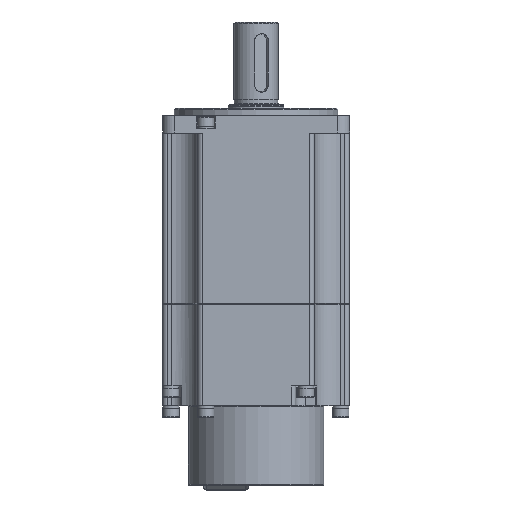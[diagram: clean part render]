
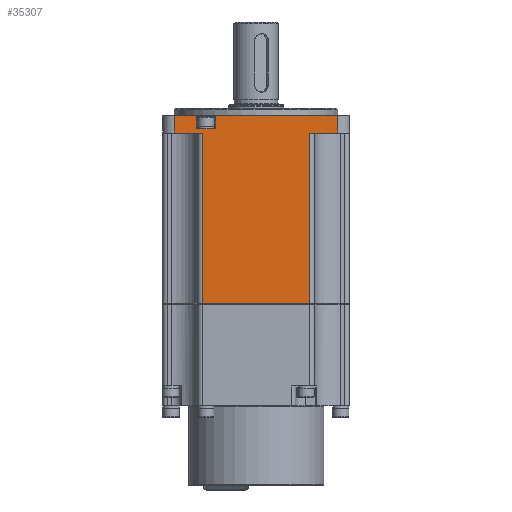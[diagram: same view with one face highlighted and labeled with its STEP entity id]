
A CAD part, front view. The second image highlights one B-rep face of the part: STEP entity #35307.
In plain terms, the highlighted planar face has unit normal (0, -1, 0).
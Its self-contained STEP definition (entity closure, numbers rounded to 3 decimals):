
#944=PLANE('',#37754);
#3281=FACE_OUTER_BOUND('',#5237,.T.);
#5237=EDGE_LOOP('',(#25960,#25961,#25962,#25963,#25964,#25965,#25966,#25967,
#25968,#25969,#25970,#25971));
#7706=LINE('',#56732,#10643);
#7730=LINE('',#57495,#10667);
#7733=LINE('',#57503,#10670);
#7747=LINE('',#57534,#10684);
#7748=LINE('',#57537,#10685);
#7749=LINE('',#57539,#10686);
#7750=LINE('',#57541,#10687);
#7751=LINE('',#57543,#10688);
#7752=LINE('',#57545,#10689);
#7753=LINE('',#57546,#10690);
#7754=LINE('',#57547,#10691);
#7755=LINE('',#57548,#10692);
#10643=VECTOR('',#43121,1000.);
#10667=VECTOR('',#43271,1000.);
#10670=VECTOR('',#43276,1000.);
#10684=VECTOR('',#43304,1000.);
#10685=VECTOR('',#43307,1000.);
#10686=VECTOR('',#43308,1000.);
#10687=VECTOR('',#43309,1000.);
#10688=VECTOR('',#43310,1000.);
#10689=VECTOR('',#43311,1000.);
#10690=VECTOR('',#43312,1000.);
#10691=VECTOR('',#43313,1000.);
#10692=VECTOR('',#43314,1000.);
#15174=VERTEX_POINT('',#56729);
#15175=VERTEX_POINT('',#56731);
#15239=VERTEX_POINT('',#57492);
#15240=VERTEX_POINT('',#57494);
#15243=VERTEX_POINT('',#57500);
#15244=VERTEX_POINT('',#57502);
#15254=VERTEX_POINT('',#57532);
#15255=VERTEX_POINT('',#57536);
#15256=VERTEX_POINT('',#57538);
#15257=VERTEX_POINT('',#57540);
#15258=VERTEX_POINT('',#57542);
#15259=VERTEX_POINT('',#57544);
#19140=EDGE_CURVE('',#15175,#15174,#7706,.T.);
#19216=EDGE_CURVE('',#15239,#15240,#7730,.T.);
#19220=EDGE_CURVE('',#15243,#15244,#7733,.T.);
#19237=EDGE_CURVE('',#15244,#15254,#7747,.T.);
#19238=EDGE_CURVE('',#15239,#15255,#7748,.T.);
#19239=EDGE_CURVE('',#15255,#15256,#7749,.T.);
#19240=EDGE_CURVE('',#15256,#15257,#7750,.T.);
#19241=EDGE_CURVE('',#15257,#15258,#7751,.T.);
#19242=EDGE_CURVE('',#15259,#15258,#7752,.T.);
#19243=EDGE_CURVE('',#15259,#15254,#7753,.T.);
#19244=EDGE_CURVE('',#15243,#15175,#7754,.T.);
#19245=EDGE_CURVE('',#15174,#15240,#7755,.T.);
#25960=ORIENTED_EDGE('',*,*,#19216,.F.);
#25961=ORIENTED_EDGE('',*,*,#19238,.T.);
#25962=ORIENTED_EDGE('',*,*,#19239,.T.);
#25963=ORIENTED_EDGE('',*,*,#19240,.T.);
#25964=ORIENTED_EDGE('',*,*,#19241,.T.);
#25965=ORIENTED_EDGE('',*,*,#19242,.F.);
#25966=ORIENTED_EDGE('',*,*,#19243,.T.);
#25967=ORIENTED_EDGE('',*,*,#19237,.F.);
#25968=ORIENTED_EDGE('',*,*,#19220,.F.);
#25969=ORIENTED_EDGE('',*,*,#19244,.T.);
#25970=ORIENTED_EDGE('',*,*,#19140,.T.);
#25971=ORIENTED_EDGE('',*,*,#19245,.T.);
#35307=ADVANCED_FACE('',(#3281),#944,.T.);
#37754=AXIS2_PLACEMENT_3D('',#57535,#43305,#43306);
#43121=DIRECTION('',(-1.,0.,0.));
#43271=DIRECTION('',(1.,0.,0.));
#43276=DIRECTION('',(1.,0.,0.));
#43304=DIRECTION('',(0.,0.,-1.));
#43305=DIRECTION('center_axis',(0.,-1.,
0.));
#43306=DIRECTION('ref_axis',(0.,0.,
-1.));
#43307=DIRECTION('',(0.,0.,-1.));
#43308=DIRECTION('',(1.,0.,0.));
#43309=DIRECTION('',(0.,0.,-1.));
#43310=DIRECTION('',(1.,0.,0.));
#43311=DIRECTION('',(0.,0.,-1.));
#43312=DIRECTION('',(1.,0.,0.));
#43313=DIRECTION('',(0.,0.,-1.));
#43314=DIRECTION('',(0.,0.,1.));
#56729=CARTESIAN_POINT('',(-25.341,-39.991,80.153));
#56731=CARTESIAN_POINT('',(-17.341,-39.994,80.153));
#56732=CARTESIAN_POINT('',(-25.341,-39.991,80.153));
#57492=CARTESIAN_POINT('',(-34.941,-39.987,85.653));
#57494=CARTESIAN_POINT('',(-25.341,-39.991,85.653));
#57495=CARTESIAN_POINT('',(21.459,-40.008,85.653));
#57500=CARTESIAN_POINT('',(-17.341,-39.994,85.653));
#57502=CARTESIAN_POINT('',(35.059,-40.013,85.653));
#57503=CARTESIAN_POINT('',(21.459,-40.008,85.653));
#57532=CARTESIAN_POINT('',(35.059,-40.013,78.153));
#57534=CARTESIAN_POINT('',(35.059,-40.013,85.653));
#57535=CARTESIAN_POINT('Origin',(-25.341,-39.991,85.653));
#57536=CARTESIAN_POINT('',(-34.941,-39.987,78.153));
#57537=CARTESIAN_POINT('',(-34.941,-39.987,85.653));
#57538=CARTESIAN_POINT('',(-22.941,-39.991,78.153));
#57539=CARTESIAN_POINT('',(-25.341,-39.991,78.153));
#57540=CARTESIAN_POINT('',(-22.941,-39.991,5.253));
#57541=CARTESIAN_POINT('',(-22.941,-39.991,20.953));
#57542=CARTESIAN_POINT('',(23.059,-40.009,5.253));
#57543=CARTESIAN_POINT('',(-22.941,-39.991,5.253));
#57544=CARTESIAN_POINT('',(23.059,-40.009,78.153));
#57545=CARTESIAN_POINT('',(23.059,-40.009,20.953));
#57546=CARTESIAN_POINT('',(-25.341,-39.991,78.153));
#57547=CARTESIAN_POINT('',(-17.341,-39.994,85.653));
#57548=CARTESIAN_POINT('',(-25.341,-39.991,85.653));
